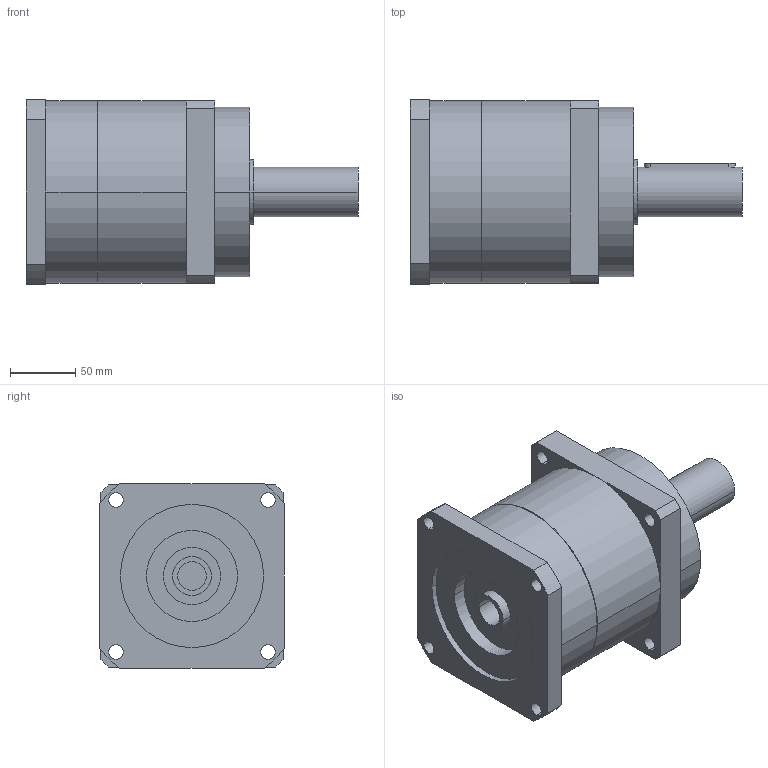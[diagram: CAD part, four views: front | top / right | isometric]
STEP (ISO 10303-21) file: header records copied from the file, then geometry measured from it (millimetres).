
FILE_DESCRIPTION(('CoCreate Modeling STEP Export'),'2;1');
FILE_NAME('GPR150_ig-3-4-5-7_38_B5_22_P14.stp','2014-08-26T15:29:21',(''),(''),'CoCreate Modeling STEP processor for AP214 (Solid Model)','CoCreate Modeling 16.00C 25-Feb-2009 (C) Parametric Technology GmbH','');
FILE_SCHEMA(('AUTOMOTIVE_DESIGN { 1 0 10303 214 1 1 1 1 }'));
Length unit declared in the file: millimetre
Products named in the file (2): GPR150_ig-3-4-5-7_38_B5_22_P14
Assembly tree (1 placements, depth 2):
  GPR150_ig-3-4-5-7_38_B5_22_P14
    GPR150_ig-3-4-5-7_38_B5_22_P14
Bounding box: 255 x 142 x 142 mm (x, y, z)
Volume: 2731574.2 mm3; surface area: 149511 mm2
Topology: 1 solids, 1 shells, 81 faces, 218 edges, 148 vertices
Faces by surface type: cylinder 48, plane 27, cone 6
Entity records: 2315 total; most frequent: ORIENTED_EDGE 432, CARTESIAN_POINT 429, DIRECTION 330, EDGE_CURVE 216, VERTEX_POINT 148, AXIS2_PLACEMENT_3D 121, EDGE_LOOP 108, VECTOR 88
